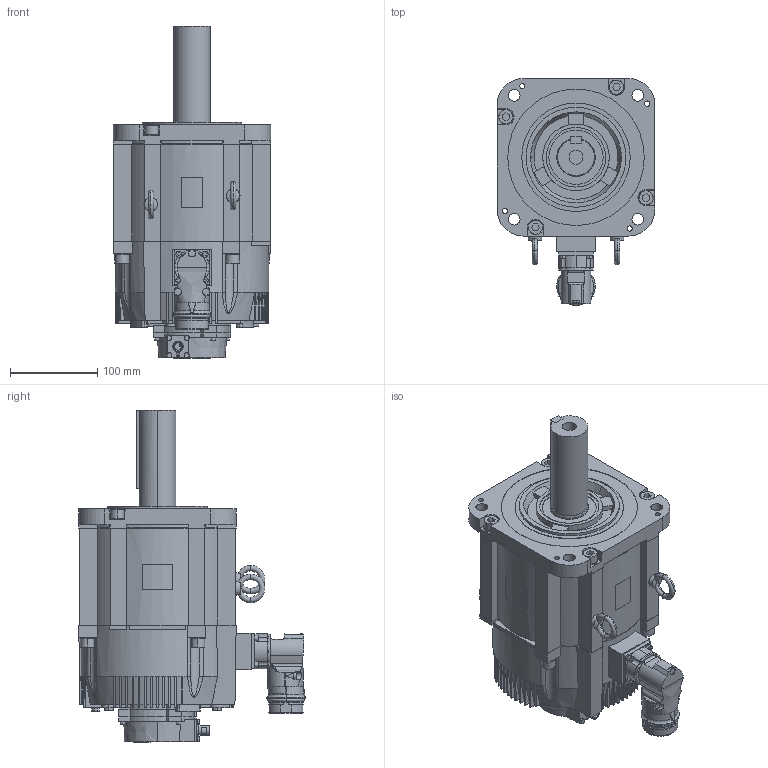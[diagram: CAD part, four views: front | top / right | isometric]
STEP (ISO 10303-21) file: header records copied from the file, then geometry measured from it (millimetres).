
FILE_DESCRIPTION (( 'STEP AP203' ), '1' );
FILE_NAME ('sgm7g_55d_f6h.STEP', '2017-06-13T03:00:44', ( '匠エンジニアリング山之内' ), ( 'TAKUMI-Engniaring' ), 'SwSTEP 2.0', 'SolidWorks 2006303', '' );
FILE_SCHEMA (( 'CONFIG_CONTROL_DESIGN' ));
Products named in the file (5): sgm7g_55d_f6h_connector; sgm7g_55d_f6h_base; sgm7g_55d_f6h_eyebolt; sgm7g_55d_f6h_key; sgm7g_55d_f6h
Assembly tree (5 placements, depth 2):
  sgm7g_55d_f6h
    sgm7g_55d_f6h_eyebolt  x2
    sgm7g_55d_f6h_key
    sgm7g_55d_f6h_connector
    sgm7g_55d_f6h_base
Bounding box: 180 x 259 x 379.6 mm (x, y, z)
Volume: 6340610.3 mm3; surface area: 329237.9 mm2
Topology: 5 solids, 5 shells, 1239 faces, 3214 edges, 2081 vertices
Faces by surface type: plane 760, cylinder 341, cone 113, torus 13, bspline 12
Entity records: 40297 total; most frequent: CARTESIAN_POINT 9331, DIRECTION 6386, ORIENTED_EDGE 6374, EDGE_CURVE 3187, AXIS2_PLACEMENT_3D 2265, VERTEX_POINT 2065, VECTOR 1856, LINE 1856
